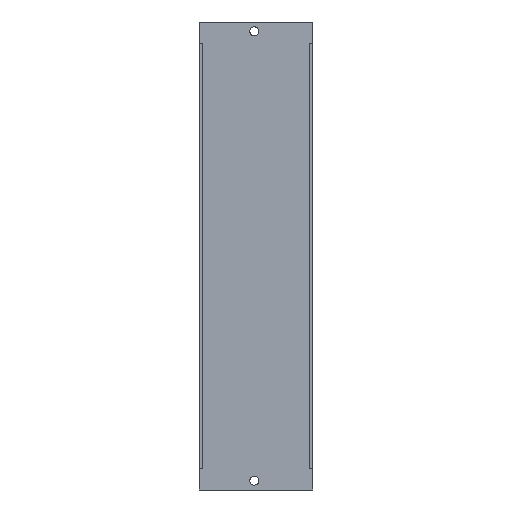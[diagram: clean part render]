
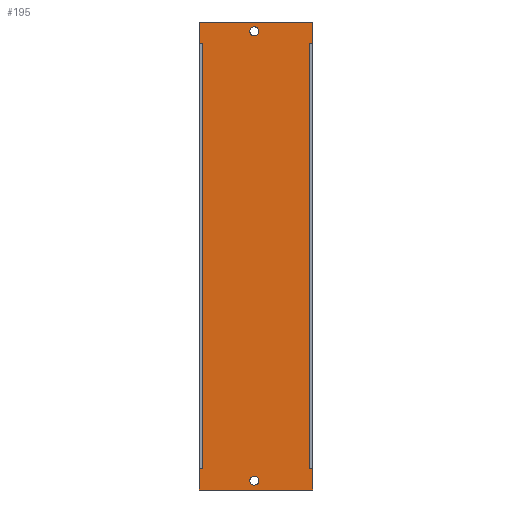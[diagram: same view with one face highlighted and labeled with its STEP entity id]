
A CAD part, left-side view. The second image highlights one B-rep face of the part: STEP entity #195.
In plain terms, the highlighted planar face has unit normal (-1, 0, 0).
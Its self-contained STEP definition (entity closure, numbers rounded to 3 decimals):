
#35=AXIS2_PLACEMENT_3D('Plane Axis2P3D',#32,#33,#34) ;
#32=CARTESIAN_POINT('Axis2P3D Location',(-1.575,0.,0.)) ;
#37=CARTESIAN_POINT('Line Origine',(-1.575,52.146,111.125)) ;
#41=CARTESIAN_POINT('Vertex',(-1.575,52.146,212.09)) ;
#43=CARTESIAN_POINT('Vertex',(-1.575,52.146,10.16)) ;
#46=CARTESIAN_POINT('Line Origine',(-1.575,26.861,10.16)) ;
#50=CARTESIAN_POINT('Vertex',(-1.575,53.721,10.16)) ;
#53=CARTESIAN_POINT('Line Origine',(-1.575,53.721,111.125)) ;
#57=CARTESIAN_POINT('Vertex',(-1.575,53.721,0.)) ;
#60=CARTESIAN_POINT('Line Origine',(-1.575,26.861,0.)) ;
#64=CARTESIAN_POINT('Vertex',(-1.575,0.,0.)) ;
#67=CARTESIAN_POINT('Line Origine',(-1.575,0.,111.125)) ;
#71=CARTESIAN_POINT('Vertex',(-1.575,0.,10.16)) ;
#74=CARTESIAN_POINT('Line Origine',(-1.575,26.861,10.16)) ;
#78=CARTESIAN_POINT('Vertex',(-1.575,1.575,10.16)) ;
#81=CARTESIAN_POINT('Line Origine',(-1.575,1.575,111.125)) ;
#85=CARTESIAN_POINT('Vertex',(-1.575,1.575,212.09)) ;
#88=CARTESIAN_POINT('Line Origine',(-1.575,26.861,212.09)) ;
#92=CARTESIAN_POINT('Vertex',(-1.575,0.,212.09)) ;
#95=CARTESIAN_POINT('Line Origine',(-1.575,0.,111.125)) ;
#99=CARTESIAN_POINT('Vertex',(-1.575,0.,222.25)) ;
#102=CARTESIAN_POINT('Line Origine',(-1.575,26.861,222.25)) ;
#106=CARTESIAN_POINT('Vertex',(-1.575,53.721,222.25)) ;
#109=CARTESIAN_POINT('Line Origine',(-1.575,53.721,111.125)) ;
#113=CARTESIAN_POINT('Vertex',(-1.575,53.721,212.09)) ;
#116=CARTESIAN_POINT('Line Origine',(-1.575,26.861,212.09)) ;
#136=CARTESIAN_POINT('Control Point',(-1.575,25.514,217.805)) ;
#137=CARTESIAN_POINT('Control Point',(-1.575,25.514,218.483)) ;
#138=CARTESIAN_POINT('Control Point',(-1.575,25.781,219.162)) ;
#139=CARTESIAN_POINT('Control Point',(-1.575,26.317,219.698)) ;
#140=CARTESIAN_POINT('Control Point',(-1.575,27.673,220.23)) ;
#141=CARTESIAN_POINT('Control Point',(-1.575,29.03,219.698)) ;
#142=CARTESIAN_POINT('Control Point',(-1.575,29.566,219.162)) ;
#143=CARTESIAN_POINT('Control Point',(-1.575,29.832,218.483)) ;
#144=CARTESIAN_POINT('Control Point',(-1.575,29.832,217.805)) ;
#145=CARTESIAN_POINT('Vertex',(-1.575,25.514,217.805)) ;
#147=CARTESIAN_POINT('Vertex',(-1.575,29.832,217.805)) ;
#151=CARTESIAN_POINT('Control Point',(-1.575,29.832,217.805)) ;
#152=CARTESIAN_POINT('Control Point',(-1.575,29.832,217.127)) ;
#153=CARTESIAN_POINT('Control Point',(-1.575,29.566,216.448)) ;
#154=CARTESIAN_POINT('Control Point',(-1.575,29.03,215.912)) ;
#155=CARTESIAN_POINT('Control Point',(-1.575,27.673,215.38)) ;
#156=CARTESIAN_POINT('Control Point',(-1.575,26.317,215.912)) ;
#157=CARTESIAN_POINT('Control Point',(-1.575,25.781,216.448)) ;
#158=CARTESIAN_POINT('Control Point',(-1.575,25.514,217.127)) ;
#159=CARTESIAN_POINT('Control Point',(-1.575,25.514,217.805)) ;
#166=CARTESIAN_POINT('Control Point',(-1.575,25.514,4.445)) ;
#167=CARTESIAN_POINT('Control Point',(-1.575,25.514,5.123)) ;
#168=CARTESIAN_POINT('Control Point',(-1.575,25.781,5.802)) ;
#169=CARTESIAN_POINT('Control Point',(-1.575,26.317,6.338)) ;
#170=CARTESIAN_POINT('Control Point',(-1.575,27.673,6.87)) ;
#171=CARTESIAN_POINT('Control Point',(-1.575,29.03,6.338)) ;
#172=CARTESIAN_POINT('Control Point',(-1.575,29.566,5.802)) ;
#173=CARTESIAN_POINT('Control Point',(-1.575,29.832,5.123)) ;
#174=CARTESIAN_POINT('Control Point',(-1.575,29.832,4.445)) ;
#175=CARTESIAN_POINT('Vertex',(-1.575,25.514,4.445)) ;
#177=CARTESIAN_POINT('Vertex',(-1.575,29.832,4.445)) ;
#181=CARTESIAN_POINT('Control Point',(-1.575,29.832,4.445)) ;
#182=CARTESIAN_POINT('Control Point',(-1.575,29.832,3.767)) ;
#183=CARTESIAN_POINT('Control Point',(-1.575,29.566,3.088)) ;
#184=CARTESIAN_POINT('Control Point',(-1.575,29.03,2.552)) ;
#185=CARTESIAN_POINT('Control Point',(-1.575,27.673,2.02)) ;
#186=CARTESIAN_POINT('Control Point',(-1.575,26.317,2.552)) ;
#187=CARTESIAN_POINT('Control Point',(-1.575,25.781,3.088)) ;
#188=CARTESIAN_POINT('Control Point',(-1.575,25.514,3.767)) ;
#189=CARTESIAN_POINT('Control Point',(-1.575,25.514,4.445)) ;
#33=DIRECTION('Axis2P3D Direction',(-1.,0.,0.)) ;
#34=DIRECTION('Axis2P3D XDirection',(0.,1.,0.)) ;
#38=DIRECTION('Vector Direction',(0.,0.,-1.)) ;
#47=DIRECTION('Vector Direction',(0.,1.,0.)) ;
#54=DIRECTION('Vector Direction',(0.,0.,-1.)) ;
#61=DIRECTION('Vector Direction',(0.,1.,0.)) ;
#68=DIRECTION('Vector Direction',(0.,0.,-1.)) ;
#75=DIRECTION('Vector Direction',(0.,1.,0.)) ;
#82=DIRECTION('Vector Direction',(0.,0.,-1.)) ;
#89=DIRECTION('Vector Direction',(0.,1.,0.)) ;
#96=DIRECTION('Vector Direction',(0.,0.,-1.)) ;
#103=DIRECTION('Vector Direction',(0.,1.,0.)) ;
#110=DIRECTION('Vector Direction',(0.,0.,-1.)) ;
#117=DIRECTION('Vector Direction',(0.,1.,0.)) ;
#39=VECTOR('Line Direction',#38,1.) ;
#48=VECTOR('Line Direction',#47,1.) ;
#55=VECTOR('Line Direction',#54,1.) ;
#62=VECTOR('Line Direction',#61,1.) ;
#69=VECTOR('Line Direction',#68,1.) ;
#76=VECTOR('Line Direction',#75,1.) ;
#83=VECTOR('Line Direction',#82,1.) ;
#90=VECTOR('Line Direction',#89,1.) ;
#97=VECTOR('Line Direction',#96,1.) ;
#104=VECTOR('Line Direction',#103,1.) ;
#111=VECTOR('Line Direction',#110,1.) ;
#118=VECTOR('Line Direction',#117,1.) ;
#122=ORIENTED_EDGE('',*,*,#45,.T.) ;
#123=ORIENTED_EDGE('',*,*,#52,.T.) ;
#124=ORIENTED_EDGE('',*,*,#59,.F.) ;
#125=ORIENTED_EDGE('',*,*,#66,.F.) ;
#126=ORIENTED_EDGE('',*,*,#73,.T.) ;
#127=ORIENTED_EDGE('',*,*,#80,.T.) ;
#128=ORIENTED_EDGE('',*,*,#87,.F.) ;
#129=ORIENTED_EDGE('',*,*,#94,.F.) ;
#130=ORIENTED_EDGE('',*,*,#101,.F.) ;
#131=ORIENTED_EDGE('',*,*,#108,.T.) ;
#132=ORIENTED_EDGE('',*,*,#115,.T.) ;
#133=ORIENTED_EDGE('',*,*,#120,.F.) ;
#162=ORIENTED_EDGE('',*,*,#149,.F.) ;
#163=ORIENTED_EDGE('',*,*,#160,.F.) ;
#192=ORIENTED_EDGE('',*,*,#179,.F.) ;
#193=ORIENTED_EDGE('',*,*,#190,.F.) ;
#164=FACE_BOUND('',#161,.T.) ;
#194=FACE_BOUND('',#191,.T.) ;
#195=ADVANCED_FACE('PartBody',(#134,#164,#194),#36,.T.) ;
#135=B_SPLINE_CURVE_WITH_KNOTS('',5,(#136,#137,#138,#139,#140,#141,#142,#143,#144),.UNSPECIFIED.,.F.,.U.,(6,3,6),(6.783,10.174,13.565),.UNSPECIFIED.) ;
#150=B_SPLINE_CURVE_WITH_KNOTS('',5,(#151,#152,#153,#154,#155,#156,#157,#158,#159),.UNSPECIFIED.,.F.,.U.,(6,3,6),(0.,3.391,6.783),.UNSPECIFIED.) ;
#165=B_SPLINE_CURVE_WITH_KNOTS('',5,(#166,#167,#168,#169,#170,#171,#172,#173,#174),.UNSPECIFIED.,.F.,.U.,(6,3,6),(6.783,10.174,13.565),.UNSPECIFIED.) ;
#180=B_SPLINE_CURVE_WITH_KNOTS('',5,(#181,#182,#183,#184,#185,#186,#187,#188,#189),.UNSPECIFIED.,.F.,.U.,(6,3,6),(0.,3.391,6.783),.UNSPECIFIED.) ;
#45=EDGE_CURVE('',#42,#44,#40,.T.) ;
#52=EDGE_CURVE('',#44,#51,#49,.T.) ;
#59=EDGE_CURVE('',#58,#51,#56,.F.) ;
#66=EDGE_CURVE('',#65,#58,#63,.T.) ;
#73=EDGE_CURVE('',#65,#72,#70,.F.) ;
#80=EDGE_CURVE('',#72,#79,#77,.T.) ;
#87=EDGE_CURVE('',#86,#79,#84,.T.) ;
#94=EDGE_CURVE('',#93,#86,#91,.T.) ;
#101=EDGE_CURVE('',#100,#93,#98,.T.) ;
#108=EDGE_CURVE('',#100,#107,#105,.T.) ;
#115=EDGE_CURVE('',#107,#114,#112,.T.) ;
#120=EDGE_CURVE('',#42,#114,#119,.T.) ;
#149=EDGE_CURVE('',#146,#148,#135,.T.) ;
#160=EDGE_CURVE('',#148,#146,#150,.T.) ;
#179=EDGE_CURVE('',#176,#178,#165,.T.) ;
#190=EDGE_CURVE('',#178,#176,#180,.T.) ;
#121=EDGE_LOOP('',(#122,#123,#124,#125,#126,#127,#128,#129,#130,#131,#132,#133)) ;
#161=EDGE_LOOP('',(#162,#163)) ;
#191=EDGE_LOOP('',(#192,#193)) ;
#134=FACE_OUTER_BOUND('',#121,.T.) ;
#40=LINE('Line',#37,#39) ;
#49=LINE('Line',#46,#48) ;
#56=LINE('Line',#53,#55) ;
#63=LINE('Line',#60,#62) ;
#70=LINE('Line',#67,#69) ;
#77=LINE('Line',#74,#76) ;
#84=LINE('Line',#81,#83) ;
#91=LINE('Line',#88,#90) ;
#98=LINE('Line',#95,#97) ;
#105=LINE('Line',#102,#104) ;
#112=LINE('Line',#109,#111) ;
#119=LINE('Line',#116,#118) ;
#36=PLANE('Plane',#35) ;
#42=VERTEX_POINT('',#41) ;
#44=VERTEX_POINT('',#43) ;
#51=VERTEX_POINT('',#50) ;
#58=VERTEX_POINT('',#57) ;
#65=VERTEX_POINT('',#64) ;
#72=VERTEX_POINT('',#71) ;
#79=VERTEX_POINT('',#78) ;
#86=VERTEX_POINT('',#85) ;
#93=VERTEX_POINT('',#92) ;
#100=VERTEX_POINT('',#99) ;
#107=VERTEX_POINT('',#106) ;
#114=VERTEX_POINT('',#113) ;
#146=VERTEX_POINT('',#145) ;
#148=VERTEX_POINT('',#147) ;
#176=VERTEX_POINT('',#175) ;
#178=VERTEX_POINT('',#177) ;
